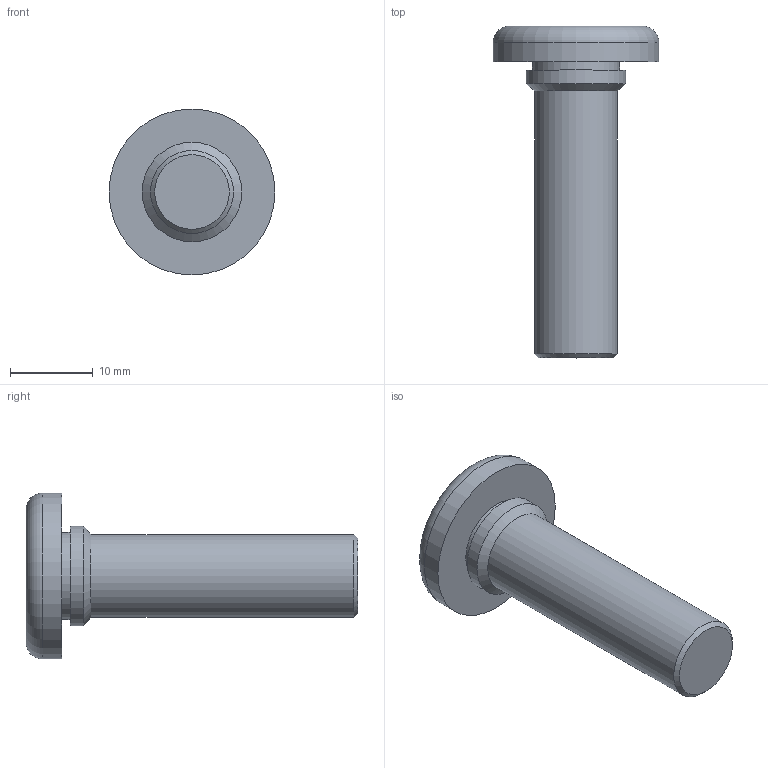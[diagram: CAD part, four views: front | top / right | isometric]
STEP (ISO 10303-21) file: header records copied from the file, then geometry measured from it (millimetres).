
FILE_DESCRIPTION(/* description */ (''),/* implementation_level */ '2;1');
FILE_NAME(/* name */ 'C:\Users\keval.kumar\Desktop\Fastit\Press Screw\M10\Press Screw_M10 x40.stp',/* time_stamp */ '2024-03-12T17:51:13+05:00',/* author */ ('keval.kumar'),/* organization */ (''),/* preprocessor_version */ 'ST-DEVELOPER v18.1',/* originating_system */ 'Autodesk Inventor 2022',/* authorisation */ '');
FILE_SCHEMA (('AUTOMOTIVE_DESIGN { 1 0 10303 214 3 1 1 }'));
Length unit declared in the file: millimetre
Products named in the file (1): Press Screw_M10 x40
Bounding box: 20 x 40 x 20 mm (x, y, z)
Volume: 4178.9 mm3; surface area: 2004 mm2
Topology: 1 solids, 1 shells, 11 faces, 19 edges, 12 vertices
Faces by surface type: cylinder 4, plane 4, cone 2, torus 1
Full cylindrical faces by diameter (mm): 10 x1, 10.5 x1, 12 x1, 20 x1
Entity records: 313 total; most frequent: DIRECTION 56, CARTESIAN_POINT 43, ORIENTED_EDGE 38, AXIS2_PLACEMENT_3D 25, EDGE_CURVE 19, EDGE_LOOP 13, CIRCLE 13, VERTEX_POINT 12
